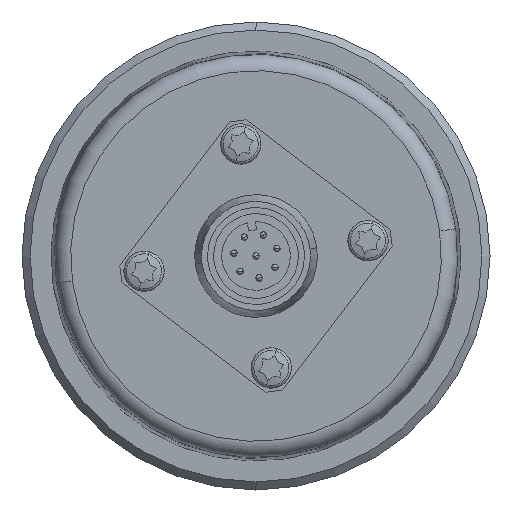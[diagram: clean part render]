
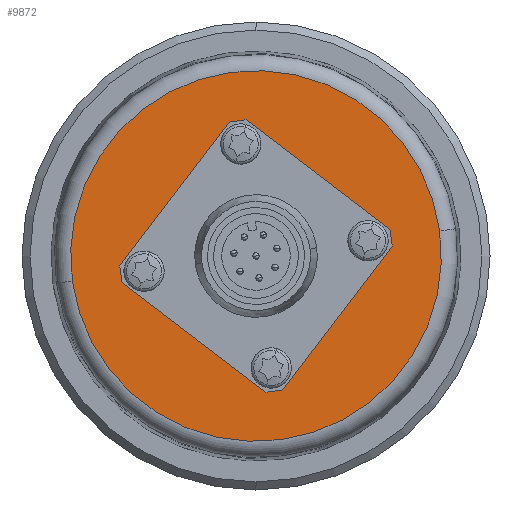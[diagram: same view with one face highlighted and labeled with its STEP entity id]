
A CAD part, left-side view. The second image highlights one B-rep face of the part: STEP entity #9872.
In plain terms, the highlighted planar face has unit normal (-1, 0, 0).
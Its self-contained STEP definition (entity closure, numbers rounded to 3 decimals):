
#9361 = VERTEX_POINT ( 'NONE', #12360 ) ;
#9363 = EDGE_CURVE ( 'NONE', #9364, #9361, #12359, .T. ) ;
#9364 = VERTEX_POINT ( 'NONE', #12354 ) ;
#9431 = VERTEX_POINT ( 'NONE', #12531 ) ;
#9433 = EDGE_CURVE ( 'NONE', #9431, #9434, #12529, .T. ) ;
#9434 = VERTEX_POINT ( 'NONE', #12524 ) ;
#9518 = VERTEX_POINT ( 'NONE', #12884 ) ;
#9529 = VERTEX_POINT ( 'NONE', #12906 ) ;
#9531 = EDGE_CURVE ( 'NONE', #9532, #9529, #12905, .T. ) ;
#9532 = VERTEX_POINT ( 'NONE', #12900 ) ;
#9602 = EDGE_CURVE ( 'NONE', #9603, #9518, #13088, .T. ) ;
#9603 = VERTEX_POINT ( 'NONE', #13083 ) ;
#9614 = VERTEX_POINT ( 'NONE', #13104 ) ;
#9616 = EDGE_CURVE ( 'NONE', #9617, #9614, #13159, .T. ) ;
#9617 = VERTEX_POINT ( 'NONE', #13153 ) ;
#9628 = VERTEX_POINT ( 'NONE', #13194 ) ;
#9630 = EDGE_CURVE ( 'NONE', #9631, #9628, #13192, .T. ) ;
#9631 = VERTEX_POINT ( 'NONE', #13187 ) ;
#9764 = EDGE_LOOP ( 'NONE', ( #9765, #9766 ) ) ;
#9765 = ORIENTED_EDGE ( 'NONE', *, *, #9616, .T. ) ;
#9766 = ORIENTED_EDGE ( 'NONE', *, *, #9767, .T. ) ;
#9767 = EDGE_CURVE ( 'NONE', #9614, #9617, #15572, .T. ) ;
#9768 = EDGE_LOOP ( 'NONE', ( #9769, #9770 ) ) ;
#9769 = ORIENTED_EDGE ( 'NONE', *, *, #9602, .T. ) ;
#9770 = ORIENTED_EDGE ( 'NONE', *, *, #9771, .T. ) ;
#9771 = EDGE_CURVE ( 'NONE', #9518, #9603, #15563, .T. ) ;
#9828 = EDGE_LOOP ( 'NONE', ( #9845, #9846 ) ) ;
#9845 = ORIENTED_EDGE ( 'NONE', *, *, #9531, .T. ) ;
#9846 = ORIENTED_EDGE ( 'NONE', *, *, #9847, .T. ) ;
#9847 = EDGE_CURVE ( 'NONE', #9529, #9532, #15959, .T. ) ;
#9848 = EDGE_LOOP ( 'NONE', ( #9849, #9851 ) ) ;
#9849 = ORIENTED_EDGE ( 'NONE', *, *, #9850, .T. ) ;
#9850 = EDGE_CURVE ( 'NONE', #9361, #9364, #15955, .T. ) ;
#9851 = ORIENTED_EDGE ( 'NONE', *, *, #9363, .T. ) ;
#9852 = EDGE_LOOP ( 'NONE', ( #9853, #9855 ) ) ;
#9853 = ORIENTED_EDGE ( 'NONE', *, *, #9854, .F. ) ;
#9854 = EDGE_CURVE ( 'NONE', #9434, #9431, #15950, .T. ) ;
#9855 = ORIENTED_EDGE ( 'NONE', *, *, #9433, .F. ) ;
#9872 = ADVANCED_FACE ( 'NONE', ( #15851, #15850, #15849, #15848, #15847, #15846 ), #15831, .F. ) ;
#9873 = EDGE_LOOP ( 'NONE', ( #9874, #9875 ) ) ;
#9874 = ORIENTED_EDGE ( 'NONE', *, *, #9630, .T. ) ;
#9875 = ORIENTED_EDGE ( 'NONE', *, *, #9876, .T. ) ;
#9876 = EDGE_CURVE ( 'NONE', #9628, #9631, #15825, .T. ) ;
#12354 = CARTESIAN_POINT ( 'NONE',  ( -21., -22.761, 3.107 ) ) ;
#12355 = DIRECTION ( 'NONE',  ( 0., 0.991, -0.135 ) ) ;
#12356 = DIRECTION ( 'NONE',  ( -1., 0., 0. ) ) ;
#12357 = CARTESIAN_POINT ( 'NONE',  ( -21., 0., 0. ) ) ;
#12358 = AXIS2_PLACEMENT_3D ( 'NONE', #12357, #12356, #12355 ) ;
#12359 = CIRCLE ( 'NONE', #12358, 22.972 ) ;
#12360 = CARTESIAN_POINT ( 'NONE',  ( -21., 22.761, -3.107 ) ) ;
#12524 = CARTESIAN_POINT ( 'NONE',  ( -21., -11.394, 1.555 ) ) ;
#12525 = DIRECTION ( 'NONE',  ( 0., -0.991, 0.135 ) ) ;
#12526 = DIRECTION ( 'NONE',  ( -1., 0., 0. ) ) ;
#12527 = CARTESIAN_POINT ( 'NONE',  ( -21., 0., 0. ) ) ;
#12528 = AXIS2_PLACEMENT_3D ( 'NONE', #12527, #12526, #12525 ) ;
#12529 = CIRCLE ( 'NONE', #12528, 11.5 ) ;
#12531 = CARTESIAN_POINT ( 'NONE',  ( -21., 11.394, -1.555 ) ) ;
#12884 = CARTESIAN_POINT ( 'NONE',  ( -21., 3.269, 13.684 ) ) ;
#12900 = CARTESIAN_POINT ( 'NONE',  ( -21., -15.248, 2.081 ) ) ;
#12901 = DIRECTION ( 'NONE',  ( 0., 0.991, -0.135 ) ) ;
#12902 = DIRECTION ( 'NONE',  ( 1., 0., 0. ) ) ;
#12903 = CARTESIAN_POINT ( 'NONE',  ( -21., -13.872, 1.894 ) ) ;
#12904 = AXIS2_PLACEMENT_3D ( 'NONE', #12903, #12902, #12901 ) ;
#12905 = CIRCLE ( 'NONE', #12904, 1.389 ) ;
#12906 = CARTESIAN_POINT ( 'NONE',  ( -21., -12.496, 1.706 ) ) ;
#13083 = CARTESIAN_POINT ( 'NONE',  ( -21., 0.518, 14.06 ) ) ;
#13084 = DIRECTION ( 'NONE',  ( 0., 0.991, -0.135 ) ) ;
#13085 = DIRECTION ( 'NONE',  ( 1., 0., 0. ) ) ;
#13086 = CARTESIAN_POINT ( 'NONE',  ( -21., 1.894, 13.872 ) ) ;
#13087 = AXIS2_PLACEMENT_3D ( 'NONE', #13086, #13085, #13084 ) ;
#13088 = CIRCLE ( 'NONE', #13087, 1.389 ) ;
#13104 = CARTESIAN_POINT ( 'NONE',  ( -21., -0.518, -14.06 ) ) ;
#13153 = CARTESIAN_POINT ( 'NONE',  ( -21., -3.269, -13.684 ) ) ;
#13155 = DIRECTION ( 'NONE',  ( 0., 0.991, -0.135 ) ) ;
#13156 = DIRECTION ( 'NONE',  ( 1., 0., 0. ) ) ;
#13157 = CARTESIAN_POINT ( 'NONE',  ( -21., -1.894, -13.872 ) ) ;
#13158 = AXIS2_PLACEMENT_3D ( 'NONE', #13157, #13156, #13155 ) ;
#13159 = CIRCLE ( 'NONE', #13158, 1.389 ) ;
#13187 = CARTESIAN_POINT ( 'NONE',  ( -21., 12.496, -1.706 ) ) ;
#13188 = DIRECTION ( 'NONE',  ( 0., 0.991, -0.135 ) ) ;
#13189 = DIRECTION ( 'NONE',  ( 1., 0., 0. ) ) ;
#13190 = CARTESIAN_POINT ( 'NONE',  ( -21., 13.872, -1.894 ) ) ;
#13191 = AXIS2_PLACEMENT_3D ( 'NONE', #13190, #13189, #13188 ) ;
#13192 = CIRCLE ( 'NONE', #13191, 1.389 ) ;
#13194 = CARTESIAN_POINT ( 'NONE',  ( -21., 15.248, -2.081 ) ) ;
#15559 = DIRECTION ( 'NONE',  ( 0., 0.991, -0.135 ) ) ;
#15560 = DIRECTION ( 'NONE',  ( 1., 0., 0. ) ) ;
#15561 = CARTESIAN_POINT ( 'NONE',  ( -21., 1.894, 13.872 ) ) ;
#15562 = AXIS2_PLACEMENT_3D ( 'NONE', #15561, #15560, #15559 ) ;
#15563 = CIRCLE ( 'NONE', #15562, 1.389 ) ;
#15564 = DIRECTION ( 'NONE',  ( 0., 0.991, -0.135 ) ) ;
#15565 = DIRECTION ( 'NONE',  ( 1., 0., 0. ) ) ;
#15566 = CARTESIAN_POINT ( 'NONE',  ( -21., -1.894, -13.872 ) ) ;
#15567 = AXIS2_PLACEMENT_3D ( 'NONE', #15566, #15565, #15564 ) ;
#15572 = CIRCLE ( 'NONE', #15567, 1.389 ) ;
#15825 = CIRCLE ( 'NONE', #15864, 1.389 ) ;
#15826 = DIRECTION ( 'NONE',  ( 0., 0.991, -0.135 ) ) ;
#15827 = DIRECTION ( 'NONE',  ( 1., 0., 0. ) ) ;
#15828 = CARTESIAN_POINT ( 'NONE',  ( -21., 0., 0. ) ) ;
#15829 = AXIS2_PLACEMENT_3D ( 'NONE', #15828, #15827, #15826 ) ;
#15830 = CARTESIAN_POINT ( 'NONE',  ( -21., 13.872, -1.894 ) ) ;
#15831 = PLANE ( 'NONE',  #15829 ) ;
#15846 = FACE_BOUND ( 'NONE', #9852, .T. ) ;
#15847 = FACE_OUTER_BOUND ( 'NONE', #9848, .T. ) ;
#15848 = FACE_BOUND ( 'NONE', #9828, .T. ) ;
#15849 = FACE_BOUND ( 'NONE', #9768, .T. ) ;
#15850 = FACE_BOUND ( 'NONE', #9764, .T. ) ;
#15851 = FACE_BOUND ( 'NONE', #9873, .T. ) ;
#15862 = DIRECTION ( 'NONE',  ( 0., 0.991, -0.135 ) ) ;
#15863 = DIRECTION ( 'NONE',  ( 1., 0., 0. ) ) ;
#15864 = AXIS2_PLACEMENT_3D ( 'NONE', #15830, #15863, #15862 ) ;
#15881 = DIRECTION ( 'NONE',  ( 0., -0.991, 0.135 ) ) ;
#15882 = DIRECTION ( 'NONE',  ( -1., 0., 0. ) ) ;
#15883 = CARTESIAN_POINT ( 'NONE',  ( -21., 0., 0. ) ) ;
#15949 = AXIS2_PLACEMENT_3D ( 'NONE', #15883, #15882, #15881 ) ;
#15950 = CIRCLE ( 'NONE', #15949, 11.5 ) ;
#15952 = DIRECTION ( 'NONE',  ( 0., 0.991, -0.135 ) ) ;
#15953 = DIRECTION ( 'NONE',  ( -1., 0., 0. ) ) ;
#15954 = AXIS2_PLACEMENT_3D ( 'NONE', #15967, #15953, #15952 ) ;
#15955 = CIRCLE ( 'NONE', #15954, 22.972 ) ;
#15956 = DIRECTION ( 'NONE',  ( 0., 0.991, -0.135 ) ) ;
#15957 = DIRECTION ( 'NONE',  ( 1., 0., 0. ) ) ;
#15958 = AXIS2_PLACEMENT_3D ( 'NONE', #15968, #15957, #15956 ) ;
#15959 = CIRCLE ( 'NONE', #15958, 1.389 ) ;
#15967 = CARTESIAN_POINT ( 'NONE',  ( -21., 0., 0. ) ) ;
#15968 = CARTESIAN_POINT ( 'NONE',  ( -21., -13.872, 1.894 ) ) ;
